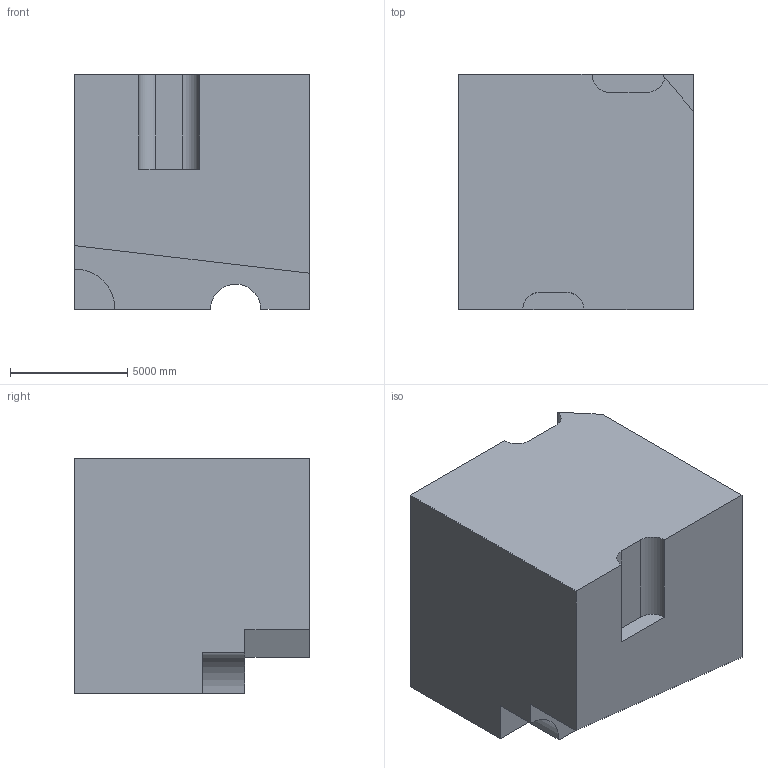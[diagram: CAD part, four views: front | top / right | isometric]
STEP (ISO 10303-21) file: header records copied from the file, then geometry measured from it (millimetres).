
FILE_DESCRIPTION (( 'STEP AP203' ), '1' );
FILE_NAME ('141.STEP', '2022-08-31T11:52:04', ( 'user' ), ( '' ), 'SwSTEP 2.0', 'SolidWorks 2021', '' );
FILE_SCHEMA (( 'CONFIG_CONTROL_DESIGN' ));
Length unit declared in the file: centimetre
Products named in the file (1): 141
Bounding box: 10000 x 10000 x 10000 mm (x, y, z)
Volume: 886370855466.2 mm3; surface area: 621896104.4 mm2
Topology: 1 solids, 1 shells, 29 faces, 78 edges, 52 vertices
Faces by surface type: plane 23, cylinder 6
Entity records: 981 total; most frequent: CARTESIAN_POINT 160, ORIENTED_EDGE 156, DIRECTION 150, EDGE_CURVE 78, LINE 66, VECTOR 66, VERTEX_POINT 52, AXIS2_PLACEMENT_3D 42
